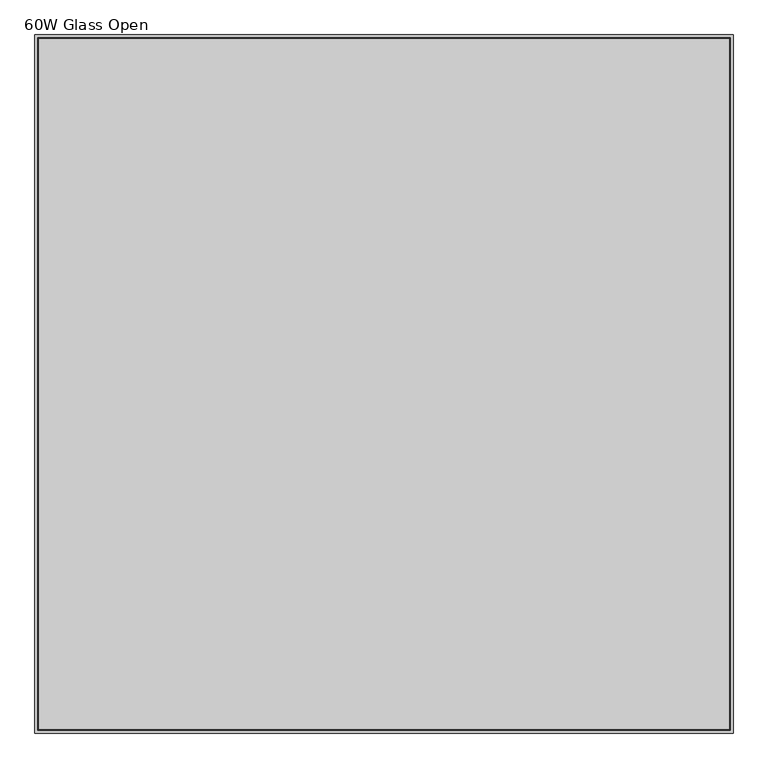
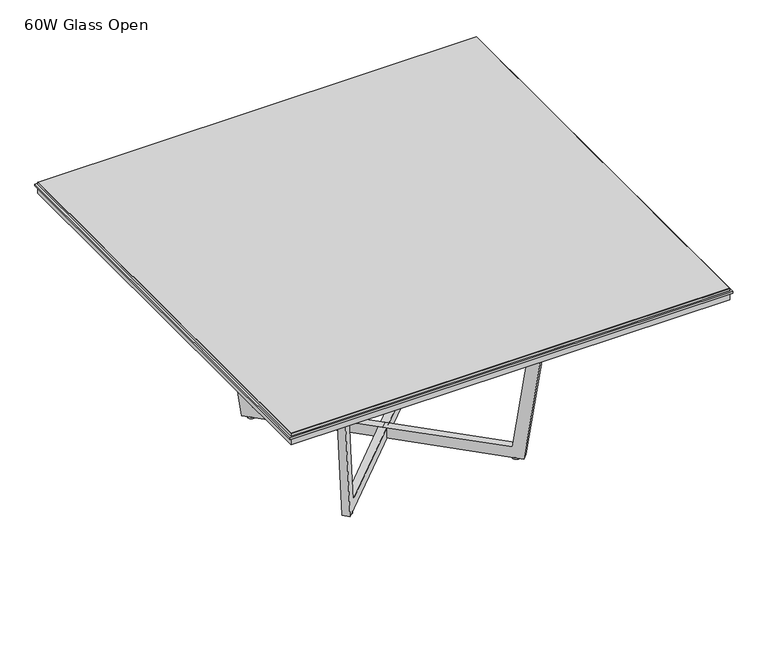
"""IFC4 building model written with IfcOpenShell, lengths in millimetres: furniture geometry, Knoll_Datesweiser_Tables_Meeting_Highline_Square : 60W Glass Open."""

from ifc_helpers import new_model, si_unit, point, frame, frame_2d, origin, origin_with_axes, place, context, project, spatial, polyline, circle_curve, trimmed, segment, composite_curve, outline, extrude, faceted_brep, source, transform, mapped, element, save


def furniture_60w_glass_open_36daf6b1(model_context):
    return source(origin(), model_context, "Body", "SolidModel", [
        extrude(outline(polyline([(762.0, 762.0), (762.0, -762.0), (-762.0, -762.0), (-762.0, 762.0), (762.0, 762.0)])), frame((0.0, 0.0, 698.5), z_axis=(0.0, 0.0, 1.0), x_axis=(1.0, 0.0, 0.0)), (0.0, 0.0, 1.0), 25.4),
        extrude(outline(polyline([(768.35, 768.35), (768.35, -768.35), (-768.35, -768.35), (-768.35, 768.35), (768.35, 768.35)])), frame((0.0, 0.0, 723.9), z_axis=(0.0, 0.0, 1.0), x_axis=(1.0, 0.0, 0.0)), (0.0, 0.0, 1.0), 6.35),
        faceted_brep([(-762.0, 762.0, 738.759), (-762.0, 762.0, 731.266), (-762.0, -762.0, 731.266), (-762.0, -762.0, 738.759), (-760.984, -760.984, 739.775), (-760.984, 760.984, 739.775), (-760.984, 760.984, 730.25), (-760.984, -760.984, 730.25), (762.0, -762.0, 731.266), (762.0, -762.0, 738.759), (760.984, -760.984, 739.775), (760.984, -760.984, 730.25), (762.0, 762.0, 731.266), (762.0, 762.0, 738.759), (760.984, 760.984, 739.775), (760.984, 760.984, 730.25)], [[[0, 1, 2, 3]], [[0, 3, 4, 5]], [[2, 1, 6, 7]], [[3, 2, 8, 9]], [[4, 3, 9, 10]], [[2, 7, 11, 8]], [[9, 8, 12, 13]], [[10, 9, 13, 14]], [[8, 11, 15, 12]], [[1, 0, 13, 12]], [[0, 5, 14, 13]], [[6, 1, 12, 15]], [[5, 4, 10, 14]], [[7, 6, 15, 11]]]),
        extrude(outline(composite_curve([segment(trimmed(circle_curve(frame_2d((-291.4942533, -291.4942533)), 12.7), [point((-278.7942533, -291.4942533))], [point((-304.1942533, -291.4942533))], False, "CARTESIAN"), True, "CONTINUOUS"), segment(trimmed(circle_curve(frame_2d((-291.4942533, -291.4942533)), 12.7), [point((-304.1942533, -291.4942533))], [point((-278.7942533, -291.4942533))], False, "CARTESIAN"), True, "CONTINUOUS")], self_intersect=False)), origin_with_axes(), (0.0, 0.0, 1.0), 5.9867797),
        extrude(outline(composite_curve([segment(trimmed(circle_curve(frame_2d((-291.4942533, 291.4942533)), 12.7), [point((-278.7942533, 291.4942533))], [point((-304.1942533, 291.4942533))], False, "CARTESIAN"), True, "CONTINUOUS"), segment(trimmed(circle_curve(frame_2d((-291.4942533, 291.4942533)), 12.7), [point((-304.1942533, 291.4942533))], [point((-278.7942533, 291.4942533))], False, "CARTESIAN"), True, "CONTINUOUS")], self_intersect=False)), origin_with_axes(), (0.0, 0.0, 1.0), 5.9867797),
        extrude(outline(composite_curve([segment(trimmed(circle_curve(frame_2d((291.4942533, -291.4942533)), 12.7), [point((304.1942533, -291.4942533))], [point((278.7942533, -291.4942533))], False, "CARTESIAN"), True, "CONTINUOUS"), segment(trimmed(circle_curve(frame_2d((291.4942533, -291.4942533)), 12.7), [point((278.7942533, -291.4942533))], [point((304.1942533, -291.4942533))], False, "CARTESIAN"), True, "CONTINUOUS")], self_intersect=False)), origin_with_axes(), (0.0, 0.0, 1.0), 5.9867797),
        extrude(outline(composite_curve([segment(trimmed(circle_curve(frame_2d((291.4942533, 291.4942533)), 12.7), [point((304.1942533, 291.4942533))], [point((278.7942533, 291.4942533))], False, "CARTESIAN"), True, "CONTINUOUS"), segment(trimmed(circle_curve(frame_2d((291.4942533, 291.4942533)), 12.7), [point((278.7942533, 291.4942533))], [point((304.1942533, 291.4942533))], False, "CARTESIAN"), True, "CONTINUOUS")], self_intersect=False)), origin_with_axes(), (0.0, 0.0, 1.0), 5.9867797),
        extrude(outline(polyline([(-439.4001671, 0.0), (0.0, 0.0), (96.4493631, -692.7824981), (56.1900883, -692.7303535), (-34.9340039, -38.198535), (-439.448964, -37.6745992), (-843.9639241, -37.1506634), (-936.7832328, -691.4442349), (-977.0425076, -691.3920902), (-878.7988599, 1.1382376), (-439.4001671, 0.0)])), frame((301.7223211, -319.6828333, 5.8430302), z_axis=(0.7071067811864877, 0.7071067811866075, 0.0), x_axis=(0.7071061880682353, -0.7071061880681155, -0.001295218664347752)), (0.0, 0.0, 1.0), 25.4),
        extrude(outline(polyline([(439.4001671, 0.0), (878.7988599, 1.1382376), (977.0425076, -691.3920902), (936.7832328, -691.4442349), (843.9639241, -37.1506634), (439.448964, -37.6745992), (34.9340039, -38.198535), (-56.1900883, -692.7303535), (-96.4493631, -692.7824981), (0.0, 0.0), (439.4001671, 0.0)])), frame((-301.7223211, -319.6828333, 5.8430302), z_axis=(-0.707106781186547, 0.7071067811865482, 0.0), x_axis=(0.7071061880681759, 0.7071061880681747, 0.0012952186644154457)), (0.0, 0.0, 1.0), 25.4),
    ])


if __name__ == "__main__":
    model = new_model("IFC4")
    model_context = context("Model", 3, world=origin())
    ifc_project = project(units=[si_unit("LENGTHUNIT", "METRE", prefix="MILLI")], contexts=[model_context])
    site = spatial("IfcSite", under=ifc_project)
    building = spatial("IfcBuilding", under=site)
    placement = place(None, origin())
    furniture_60w_glass_open_shape = furniture_60w_glass_open_36daf6b1(model_context)
    element("IfcFurniture", 1, ObjectType="Knoll_Datesweiser_Tables_Meeting_Highline_Square : 60W Glass Open", at=placement, inside=building, context=model_context, shape_type="MappedRepresentation", body=[
        mapped(furniture_60w_glass_open_shape, transform((0.0, 0.0, 0.0), x_axis=(1.0, 0.0, 0.0), y_axis=(0.0, 1.0, 0.0), z_axis=(0.0, 0.0, 1.0))),
    ])
    save(model, "model.ifc")
